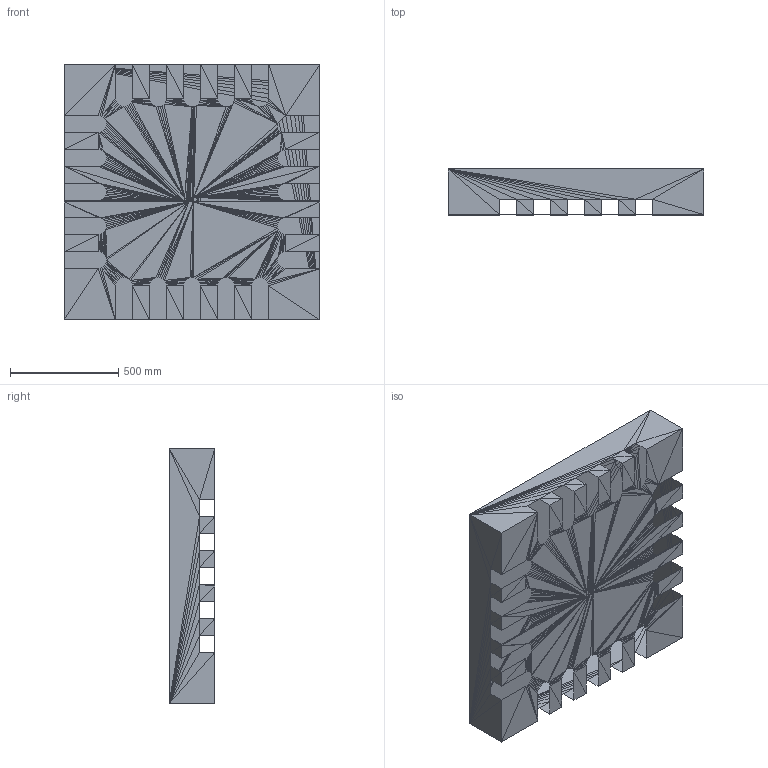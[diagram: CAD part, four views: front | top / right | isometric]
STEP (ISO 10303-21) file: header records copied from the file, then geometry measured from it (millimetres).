
FILE_DESCRIPTION(('FreeCAD Model'),'2;1');
FILE_NAME('Open CASCADE Shape Model','2023-12-12T01:33:33',(''),(''), 'Open CASCADE STEP processor 7.6','FreeCAD','Unknown');
FILE_SCHEMA(('AUTOMOTIVE_DESIGN { 1 0 10303 214 1 1 1 1 }'));
Length unit declared in the file: millimetre
Products named in the file (5): Unnamed; Mesh001001 (Solid); Mesh003001 (Solid); Mesh005001 (Solid); Mesh007001 (Solid)
Assembly tree (4 placements, depth 2):
  Unnamed
    Mesh001001 (Solid)
    Mesh003001 (Solid)
    Mesh005001 (Solid)
    Mesh007001 (Solid)
Bounding box: 1181.2 x 210.6 x 1181.2 mm (x, y, z)
Surface area: 3380830.6 mm2 (no closed solid volume)
Topology: 0 solids, 4 shells, 643 faces, 1277 edges, 631 vertices
Faces by surface type: plane 643
Entity records: 14858 total; most frequent: DIRECTION 2573, CARTESIAN_POINT 2556, ORIENTED_EDGE 1929, EDGE_CURVE 1277, LINE 1277, VECTOR 1277, AXIS2_PLACEMENT_3D 648, ADVANCED_FACE 643
